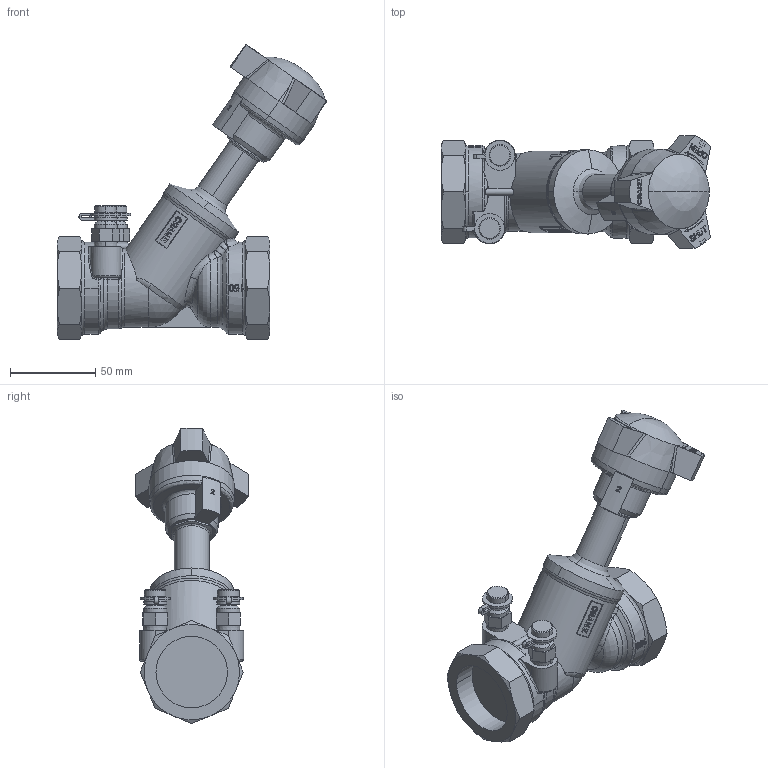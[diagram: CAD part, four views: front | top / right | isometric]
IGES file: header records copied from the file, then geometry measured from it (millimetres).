
Global section: file name: No Iges File Name specified; native system: AutoDesk Inventor R12.0; preprocessor: AutoDesk Inventor Iges Exporter R12.0; date: 20110307.091602; units: millimetre
Bounding box: 158.53 x 66.44 x 173.6 mm (x, y, z)
Volume: 391135.2 mm3; surface area: 53306.8 mm2
Topology: 1 solids, 1 shells, 890 faces, 2383 edges, 1550 vertices
Faces by surface type: bspline 375, plane 354, cylinder 81, cone 58, revolution 11, torus 9, sphere 2
